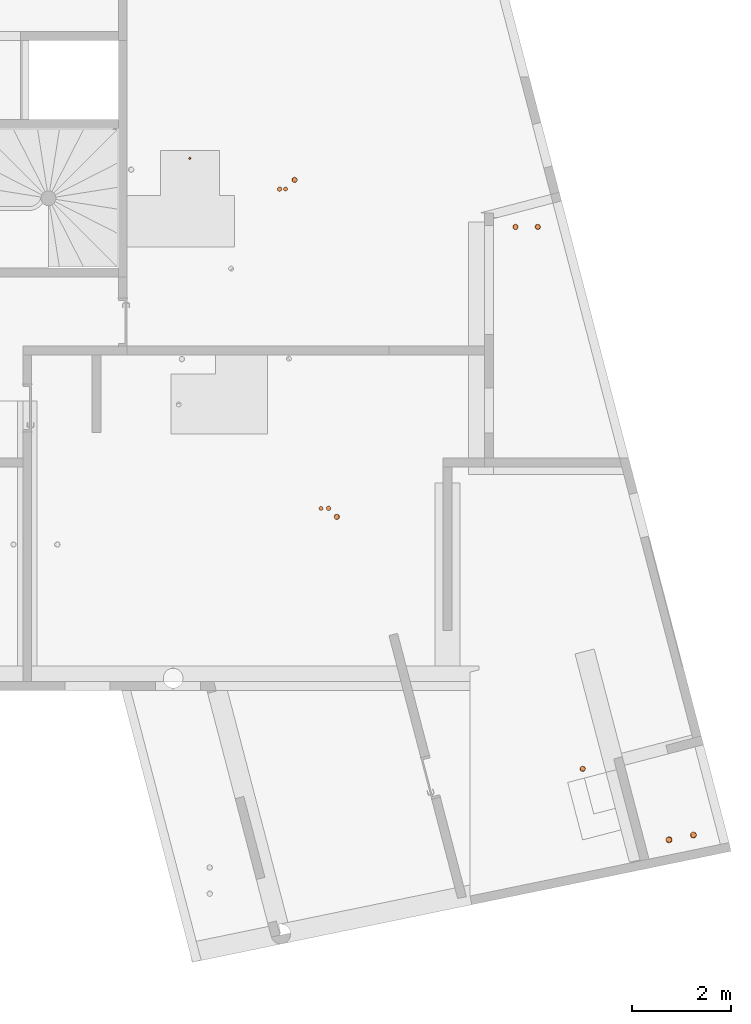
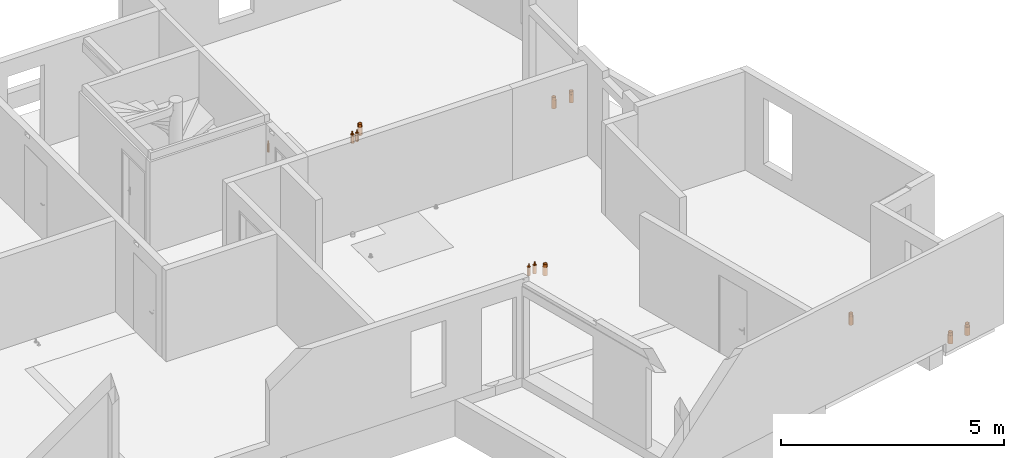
# One storey, part 33 of 34: 12 proxies.
"""IFC2X3 building model written with IfcOpenShell, lengths in centimetres."""

from ifc_helpers import new_model, entity, si_unit, converted_unit, derived_unit, direction, frame, frame_2d, origin, place, context, subcontext, project, spatial, circle, hollow_circle, extrude, source, transform, mapped, material, type_object, type_shapes, element, save


model = new_model("IFC2X3")

# Units and contexts
model_context = context("Model", 3, precision=0.001, world=origin(), true_north=direction((6.12303176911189e-17, 1.0)))
body_context = subcontext(model_context, "Body", "Model", "MODEL_VIEW")
ifc_project = project(units=[si_unit("LENGTHUNIT", "METRE", prefix="CENTI"), si_unit("AREAUNIT", "SQUARE_METRE"), si_unit("VOLUMEUNIT", "CUBIC_METRE"), converted_unit("PLANEANGLEUNIT", "DEGREE", entity("IfcRatioMeasure", 0.0174532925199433), si_unit("PLANEANGLEUNIT", "RADIAN"), dimensions=[0, 0, 0, 0, 0, 0, 0]), si_unit("MASSUNIT", "GRAM", prefix="KILO"), derived_unit("MASSDENSITYUNIT", [(si_unit("MASSUNIT", "GRAM", prefix="KILO"), 1), (si_unit("LENGTHUNIT", "METRE"), -3)]), si_unit("TIMEUNIT", "SECOND"), si_unit("FREQUENCYUNIT", "HERTZ"), si_unit("THERMODYNAMICTEMPERATUREUNIT", "DEGREE_CELSIUS"), derived_unit("THERMALTRANSMITTANCEUNIT", [(si_unit("MASSUNIT", "GRAM", prefix="KILO"), 1), (si_unit("THERMODYNAMICTEMPERATUREUNIT", "KELVIN"), -1), (si_unit("TIMEUNIT", "SECOND"), -3)]), derived_unit("VOLUMETRICFLOWRATEUNIT", [(si_unit("LENGTHUNIT", "METRE"), 3), (si_unit("TIMEUNIT", "SECOND"), -1)]), si_unit("ELECTRICCURRENTUNIT", "AMPERE"), si_unit("ELECTRICVOLTAGEUNIT", "VOLT"), si_unit("POWERUNIT", "WATT"), si_unit("FORCEUNIT", "NEWTON"), si_unit("ILLUMINANCEUNIT", "LUX"), si_unit("LUMINOUSFLUXUNIT", "LUMEN"), si_unit("LUMINOUSINTENSITYUNIT", "CANDELA"), derived_unit("USERDEFINED", [(si_unit("MASSUNIT", "GRAM", prefix="KILO"), -1), (si_unit("LENGTHUNIT", "METRE"), -2), (si_unit("TIMEUNIT", "SECOND"), 3), (si_unit("LUMINOUSFLUXUNIT", "LUMEN"), 1)]), derived_unit("LINEARVELOCITYUNIT", [(si_unit("LENGTHUNIT", "METRE"), 1), (si_unit("TIMEUNIT", "SECOND"), -1)]), si_unit("PRESSUREUNIT", "PASCAL"), derived_unit("USERDEFINED", [(si_unit("LENGTHUNIT", "METRE"), -2), (si_unit("MASSUNIT", "GRAM", prefix="KILO"), 1), (si_unit("TIMEUNIT", "SECOND"), -2)])], contexts=[model_context])

# Site, building, storey
site_placement = place(None, origin())
site = spatial("IfcSite", under=ifc_project, at=site_placement, Name="Default", CompositionType="ELEMENT")
building_placement = place(site_placement, origin())
building = spatial("IfcBuilding", under=site, at=building_placement, Name="CAGE 03", CompositionType="ELEMENT")
storey_placement = place(building_placement, frame((0.0, 0.0, 340.0)))
storey = spatial("IfcBuildingStorey", under=building, at=storey_placement, Name="R+1", CompositionType="ELEMENT", Elevation=340.0)

# Proxies
ifc_material_1 = material(Name="Conduit EU")
building_element_proxy_type_1 = type_object("IfcBuildingElementProxyType", Name="EU 100", PredefinedType="NOTDEFINED", material=ifc_material_1)
shared_shape_1 = source(origin(), body_context, "Body", "SweptSolid", [
    extrude(circle(Radius=5.5, at=frame_2d((0.0, -8.88549515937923e-15), x_axis=(1.0, 0.0))), frame((0.0, 0.0, -23.0)), (0.0, 0.0, 1.0), 23.0),
    extrude(hollow_circle(Radius=5.0, WallThickness=0.25, at=frame_2d((0.0, -8.07772287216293e-15), x_axis=(1.0, 0.0))), frame((0.0, 0.0, -23.0)), (0.0, 0.0, 1.0), 30.5),
])
type_shapes(building_element_proxy_type_1, [shared_shape_1])
for number, where, name in (
    (1, (10846.7825362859, 4828.73252291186, -4.46999646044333e-07), "Galette - Résa - PVC:EU 100"),
    (2, (11429.0357768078, 3638.21190186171, -4.46999646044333e-07), "Galette - Résa - PVC:EU 100"),
    (3, (10932.3241224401, 4147.61794280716, -4.46999646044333e-07), "Galette - Résa - PVC:EU 100"),
):
    element("IfcBuildingElementProxy", number, at=place(storey_placement, frame(where)), inside=storey, type_object=building_element_proxy_type_1, material=ifc_material_1, Name=name, ObjectType="EU 100", context=body_context, shape_type="MappedRepresentation", body=[
        mapped(shared_shape_1, transform((0.0, 0.0, 0.0), scale=1.0)),
    ])
building_element_proxy_type_2 = type_object("IfcBuildingElementProxyType", Name="EU 40", PredefinedType="NOTDEFINED", material=ifc_material_1)
shared_shape_2 = source(origin(), body_context, "Body", "SweptSolid", [
    extrude(circle(Radius=2.5, at=frame_2d((0.0, -4.03886143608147e-15), x_axis=(1.0, 0.0))), frame((0.0, 0.0, -23.0)), (0.0, 0.0, 1.0), 23.0),
    extrude(hollow_circle(Radius=2.0, WallThickness=0.25, at=frame_2d((0.0, -3.23108914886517e-15), x_axis=(1.0, 0.0))), frame((0.0, 0.0, -23.0)), (0.0, 0.0, 1.0), 30.5),
])
type_shapes(building_element_proxy_type_2, [shared_shape_2])
proxy_placement = place(storey_placement, frame((10635.0877181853, 4872.2386241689, -4.46999646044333e-07)))
element("IfcBuildingElementProxy", 4, at=proxy_placement, inside=storey, type_object=building_element_proxy_type_2, material=ifc_material_1, Name="Galette - Résa - PVC:EU 40", ObjectType="EU 40", context=body_context, shape_type="MappedRepresentation", body=[
    mapped(shared_shape_2, transform((0.0, 0.0, 0.0), scale=1.0)),
])
ifc_material_2 = material(Name="Conduit EP")
building_element_proxy_type_3 = type_object("IfcBuildingElementProxyType", Name="EP 100", PredefinedType="NOTDEFINED", material=ifc_material_2)
shared_shape_3 = source(origin(), body_context, "Body", "SweptSolid", [
    extrude(circle(Radius=5.5, at=frame_2d((0.0, -8.88549515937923e-15), x_axis=(1.0, 0.0))), frame((0.0, 0.0, -23.0)), (0.0, 0.0, 1.0), 23.0),
    extrude(hollow_circle(Radius=5.0, WallThickness=0.25, at=frame_2d((0.0, -8.07772287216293e-15), x_axis=(1.0, 0.0))), frame((0.0, 0.0, -23.0)), (0.0, 0.0, 1.0), 30.5),
])
type_shapes(building_element_proxy_type_3, [shared_shape_3])
for number, where, name in (
    (5, (11293.3658201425, 4733.66066607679, -25.0), "Galette - Résa - PVC:EP 100"),
    (6, (11338.3671698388, 4733.66066607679, -25.0), "Galette - Résa - PVC:EP 100"),
):
    element("IfcBuildingElementProxy", number, at=place(storey_placement, frame(where)), inside=storey, type_object=building_element_proxy_type_3, material=ifc_material_2, Name=name, ObjectType="EP 100", context=body_context, shape_type="MappedRepresentation", body=[
        mapped(shared_shape_3, transform((0.0, 0.0, 0.0), scale=1.0)),
    ])
building_element_proxy_type_4 = type_object("IfcBuildingElementProxyType", Name="EP 110", PredefinedType="NOTDEFINED", material=ifc_material_2)
shared_shape_4 = source(origin(), body_context, "Body", "SweptSolid", [
    extrude(circle(Radius=6.25, at=frame_2d((0.0, -1.00971535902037e-14), x_axis=(1.0, 0.0))), frame((0.0, 0.0, -23.0)), (0.0, 0.0, 1.0), 23.0),
    extrude(hollow_circle(Radius=5.5, WallThickness=0.250000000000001, at=frame_2d((0.0, -8.88549515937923e-15), x_axis=(1.0, 0.0))), frame((0.0, 0.0, -23.0)), (0.0, 0.0, 1.0), 30.5),
])
type_shapes(building_element_proxy_type_4, [shared_shape_4])
for number, where, z_axis, x_axis, name in (
    (7, (11603.6563517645, 3494.95134968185, -25.0), (0.0, 0.0, 1.0), (0.967549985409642, 0.252679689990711, 0.0), "Galette - Résa - PVC:EP 110"),
    (8, (11652.7377076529, 3504.49181634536, -25.0), (0.0, 0.0, 1.0), (-0.249643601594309, 0.968337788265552, 0.0), "Galette - Résa - PVC:EP 110"),
):
    element("IfcBuildingElementProxy", number, at=place(storey_placement, frame(where, z_axis=z_axis, x_axis=x_axis)), inside=storey, type_object=building_element_proxy_type_4, material=ifc_material_2, Name=name, ObjectType="EP 110", context=body_context, shape_type="MappedRepresentation", body=[
        mapped(shared_shape_4, transform((0.0, 0.0, 0.0), scale=1.0)),
    ])
ifc_material_3 = material(Name="Circuit ECS Aller")
building_element_proxy_type_5 = type_object("IfcBuildingElementProxyType", Name="ECS Aller 32", PredefinedType="NOTDEFINED", material=ifc_material_3)
shared_shape_5 = source(origin(), body_context, "Body", "SweptSolid", [
    extrude(circle(Radius=4.5, at=frame_2d((0.0, -7.26995058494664e-15), x_axis=(1.0, 0.0))), frame((0.0, 0.0, -23.0)), (0.0, 0.0, 1.0), 23.0),
    extrude(hollow_circle(Radius=1.6, WallThickness=0.05, at=frame_2d((0.0, -2.58487131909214e-15), x_axis=(1.0, 0.0))), frame((0.0, 0.0, -23.0)), (0.0, 0.0, 1.0), 30.5),
])
type_shapes(building_element_proxy_type_5, [shared_shape_5])
for number, where, name in (
    (9, (10816.453995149, 4810.1471277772, -4.46999646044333e-07), "Galette - Résa - PVC:ECS Aller 32"),
    (10, (10915.4442397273, 4164.87525516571, -4.46999646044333e-07), "Galette - Résa - PVC:ECS Aller 32"),
):
    element("IfcBuildingElementProxy", number, at=place(storey_placement, frame(where)), inside=storey, type_object=building_element_proxy_type_5, material=ifc_material_3, Name=name, ObjectType="ECS Aller 32", context=body_context, shape_type="MappedRepresentation", body=[
        mapped(shared_shape_5, transform((0.0, 0.0, 0.0), scale=1.0)),
    ])
ifc_material_4 = material(Name="Circuit ECS Retour")
building_element_proxy_type_6 = type_object("IfcBuildingElementProxyType", Name="ECS Retour 20", PredefinedType="NOTDEFINED", material=ifc_material_4)
shared_shape_6 = source(origin(), body_context, "Body", "SweptSolid", [
    extrude(circle(Radius=4.0, at=frame_2d((0.0, -6.46217829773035e-15), x_axis=(1.0, 0.0))), frame((0.0, 0.0, -23.0)), (0.0, 0.0, 1.0), 23.0),
    extrude(hollow_circle(Radius=1.0, WallThickness=0.0500000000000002, at=frame_2d((0.0, -1.61554457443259e-15), x_axis=(1.0, 0.0))), frame((0.0, 0.0, -23.0)), (0.0, 0.0, 1.0), 30.5),
])
type_shapes(building_element_proxy_type_6, [shared_shape_6])
for number, where, name in (
    (11, (10828.5411147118, 4810.1471277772, -4.46999646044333e-07), "Galette - Résa - PVC:ECS Retour 20"),
    (12, (10900.3160166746, 4164.87525516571, -4.46999646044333e-07), "Galette - Résa - PVC:ECS Retour 20"),
):
    element("IfcBuildingElementProxy", number, at=place(storey_placement, frame(where)), inside=storey, type_object=building_element_proxy_type_6, material=ifc_material_4, Name=name, ObjectType="ECS Retour 20", context=body_context, shape_type="MappedRepresentation", body=[
        mapped(shared_shape_6, transform((0.0, 0.0, 0.0), scale=1.0)),
    ])

save(model, "model.ifc")
